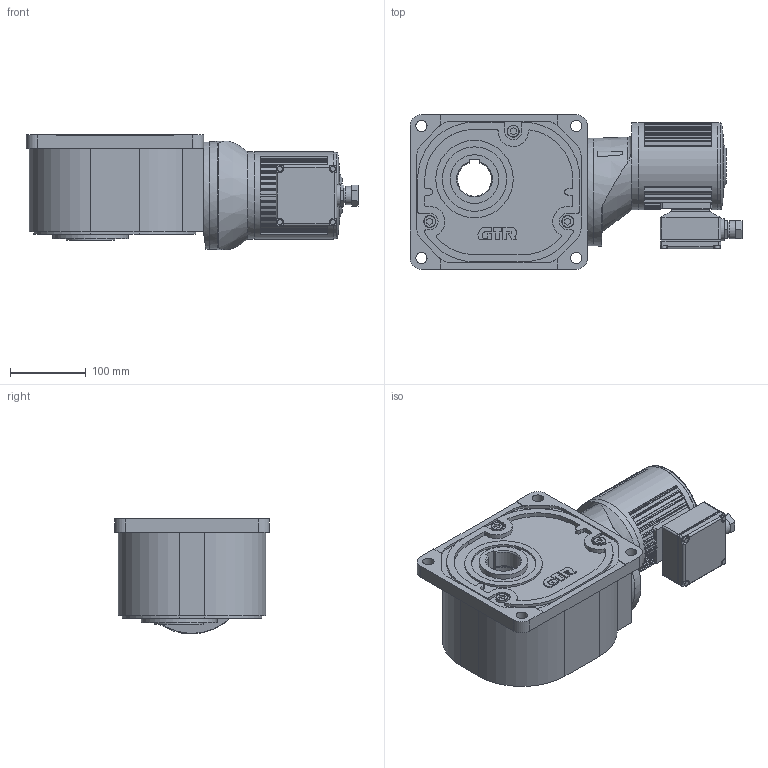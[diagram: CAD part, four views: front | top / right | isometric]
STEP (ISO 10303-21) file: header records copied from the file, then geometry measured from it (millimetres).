
FILE_DESCRIPTION( ( 'STEP AP203' ), ' ' );
FILE_NAME( 'p:/temp/worker_82/1156_3344/app_90_12017041502035933104962260eae72_000000_00_00_000000/format_0/FS45N600N-IPG020NENNone.stp', '2017-04-15T00:04:00', ( '' ), ( '' ), ' ', 'PARTsolutions', ' ' );
FILE_SCHEMA( ( 'CONFIG_CONTROL_DESIGN' ) );
Length unit declared in the file: millimetre
Products named in the file (6): FS45N600N-IPG020NENNone; _FS45; _GH020; HI_T010; _010M; _E-BOX020
Assembly tree (5 placements, depth 2):
  FS45N600N-IPG020NENNone
    _FS45
    _GH020
    HI_T010
    _010M
    _E-BOX020
Bounding box: 437.5 x 204 x 152.72 mm (x, y, z)
Volume: 7214252.1 mm3; surface area: 417365.5 mm2
Topology: 5 solids, 5 shells, 618 faces, 1620 edges, 1070 vertices
Faces by surface type: plane 332, cylinder 272, torus 8, cone 5, bspline 1
Full cylindrical faces by diameter (mm): 5 x1, 7 x4, 8.4 x4, 12 x1, 15 x4, 16 x3, 21 x1, 24 x1, 29 x1, 64 x2, 85 x2, 100 x1, 102 x2, 114.5 x1, 115 x2, 142 x1
Entity records: 19305 total; most frequent: CARTESIAN_POINT 3451, DIRECTION 3439, ORIENTED_EDGE 3146, EDGE_CURVE 1573, AXIS2_PLACEMENT_3D 1261, VERTEX_POINT 1063, LINE 917, VECTOR 917
